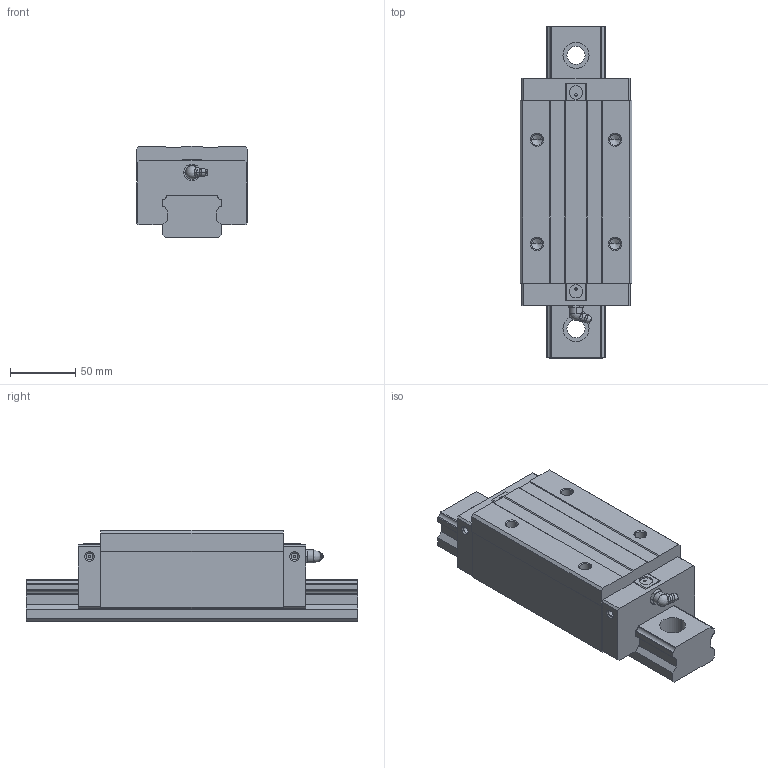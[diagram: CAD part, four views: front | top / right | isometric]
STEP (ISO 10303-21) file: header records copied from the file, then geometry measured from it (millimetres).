
FILE_DESCRIPTION((''),'1');
FILE_NAME(' ',' ',(''),(''),'ACIS Interop R16','Kubotek KeyCreator V6.5.2 (0407)',' ');
FILE_SCHEMA(('CONFIG_CONTROL_DESIGN'));
Length unit declared in the file: millimetre
Products named in the file (3): 1; 2; 3
Bounding box: 86 x 255 x 70 mm (x, y, z)
Volume: 1015638.6 mm3; surface area: 116494.5 mm2
Topology: 3 solids, 3 shells, 225 faces, 582 edges, 377 vertices
Faces by surface type: plane 110, cylinder 74, cone 26, torus 10, sphere 3, bspline 2
Entity records: 7116 total; most frequent: CARTESIAN_POINT 1367, DIRECTION 1216, ORIENTED_EDGE 1144, EDGE_CURVE 572, AXIS2_PLACEMENT_3D 442, VERTEX_POINT 377, LINE 332, VECTOR 332
